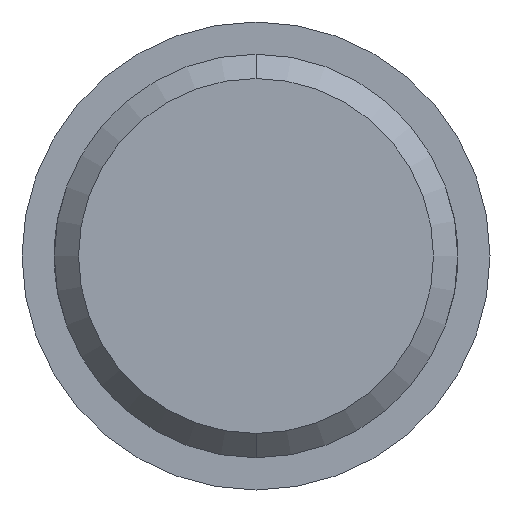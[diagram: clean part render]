
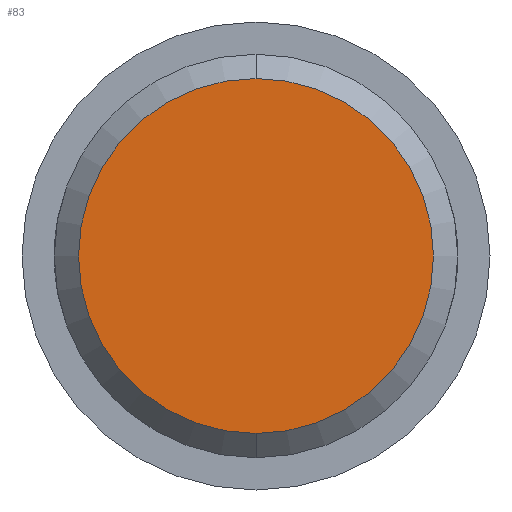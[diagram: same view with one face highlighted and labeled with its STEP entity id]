
A CAD part, front view. The second image highlights one B-rep face of the part: STEP entity #83.
In plain terms, the highlighted planar face has unit normal (0, -1, 0).
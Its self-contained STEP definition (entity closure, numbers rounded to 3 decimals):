
#63 = DIRECTION ( 'NONE',  ( 0., -1., 0. ) ) ;
#66 = PLANE ( 'NONE',  #465 ) ;
#83 = ADVANCED_FACE ( 'NONE', ( #491 ), #66, .T. ) ;
#86 = VERTEX_POINT ( 'NONE', #332 ) ;
#90 = AXIS2_PLACEMENT_3D ( 'NONE', #119, #63, #553 ) ;
#119 = CARTESIAN_POINT ( 'NONE',  ( 0., -115., 0. ) ) ;
#148 = EDGE_LOOP ( 'NONE', ( #412, #451 ) ) ;
#151 = CARTESIAN_POINT ( 'NONE',  ( 0., -115., 0. ) ) ;
#155 = DIRECTION ( 'NONE',  ( 0., -1., 0. ) ) ;
#215 = CIRCLE ( 'NONE', #90, 22. ) ;
#244 = DIRECTION ( 'NONE',  ( 0., -1., 0. ) ) ;
#254 = VERTEX_POINT ( 'NONE', #323 ) ;
#266 = CIRCLE ( 'NONE', #340, 22. ) ;
#323 = CARTESIAN_POINT ( 'NONE',  ( 0., -115., -22. ) ) ;
#332 = CARTESIAN_POINT ( 'NONE',  ( 0., -115., 22. ) ) ;
#337 = DIRECTION ( 'NONE',  ( 0., 0., -1. ) ) ;
#340 = AXIS2_PLACEMENT_3D ( 'NONE', #407, #244, #337 ) ;
#397 = EDGE_CURVE ( 'NONE', #254, #86, #266, .T. ) ;
#407 = CARTESIAN_POINT ( 'NONE',  ( 0., -115., 0. ) ) ;
#412 = ORIENTED_EDGE ( 'NONE', *, *, #441, .T. ) ;
#441 = EDGE_CURVE ( 'NONE', #86, #254, #215, .T. ) ;
#446 = DIRECTION ( 'NONE',  ( 0., 0., -1. ) ) ;
#451 = ORIENTED_EDGE ( 'NONE', *, *, #397, .T. ) ;
#465 = AXIS2_PLACEMENT_3D ( 'NONE', #151, #155, #446 ) ;
#491 = FACE_OUTER_BOUND ( 'NONE', #148, .T. ) ;
#553 = DIRECTION ( 'NONE',  ( 0., 0., -1. ) ) ;
